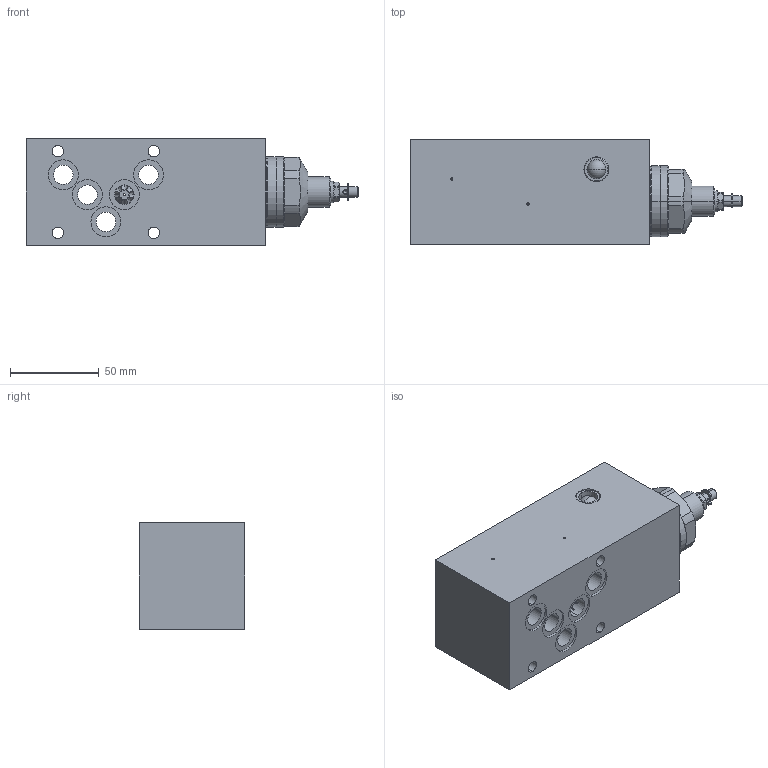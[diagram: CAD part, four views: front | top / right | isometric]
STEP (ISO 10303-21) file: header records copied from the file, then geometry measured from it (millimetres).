
FILE_DESCRIPTION (( 'STEP AP214' ), '1' );
FILE_NAME ('QZSSA10-B.STEP', '2017-04-12T13:59:37', ( '' ), ( '' ), 'SwSTEP 2.0', 'SolidWorks 2016', '' );
FILE_SCHEMA (( 'AUTOMOTIVE_DESIGN' ));
Length unit declared in the file: millimetre
Products named in the file (1): QZSSA10-B
Bounding box: 187 x 59.5 x 60 mm (x, y, z)
Volume: 472612.2 mm3; surface area: 61676 mm2
Topology: 3 solids, 5 shells, 313 faces, 778 edges, 485 vertices
Faces by surface type: cylinder 132, plane 102, cone 57, torus 18, sphere 4
Entity records: 13267 total; most frequent: CARTESIAN_POINT 2363, DIRECTION 1615, ORIENTED_EDGE 1524, EDGE_CURVE 762, AXIS2_PLACEMENT_3D 663, VERTEX_POINT 485, EDGE_LOOP 359, CIRCLE 349
